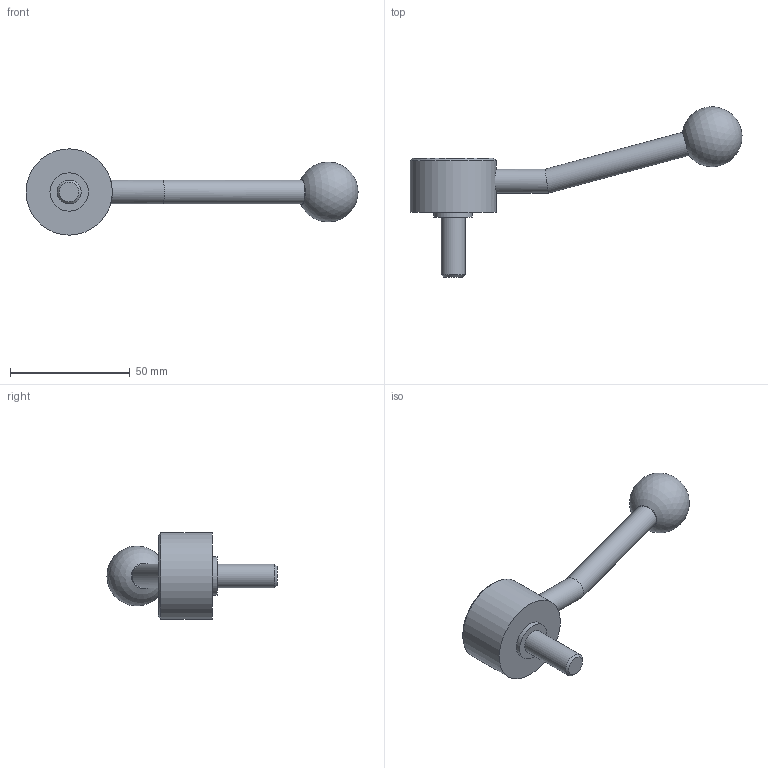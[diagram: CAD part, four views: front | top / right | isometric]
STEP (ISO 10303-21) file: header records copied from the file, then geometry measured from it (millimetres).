
FILE_DESCRIPTION( ( 'STEP AP203' ), '1' );
FILE_NAME( 'C:/Temp/Ganter_Step_05_03_2020/data/2_1/gn_125/gn_125_ms/gn_125_ms_e/Flat Adjustable Lever GN 125-36-M10-25-E.stp', '2020-03-05T11:00:57', ( 'License CC BY-ND 4.0' ), ( 'CADENAS' ), ' ', 'PARTsolutions', ' ' );
FILE_SCHEMA( ( 'CONFIG_CONTROL_DESIGN' ) );
Length unit declared in the file: millimetre
Products named in the file (1): _Flat Adjustable Lever GN 125-36-M10-25-E
Bounding box: 138.41 x 70.93 x 36 mm (x, y, z)
Volume: 39572.8 mm3; surface area: 9759.5 mm2
Topology: 1 solids, 1 shells, 15 faces, 25 edges, 16 vertices
Faces by surface type: cylinder 6, plane 6, cone 2, sphere 1
Full cylindrical faces by diameter (mm): 10 x3, 16 x1, 26 x1, 36 x1
Entity records: 412 total; most frequent: CARTESIAN_POINT 118, DIRECTION 58, AXIS2_PLACEMENT_3D 29, EDGE_LOOP 28, ORIENTED_EDGE 28, FACE_OUTER_BOUND 21, ADVANCED_FACE 15, VERTEX_POINT 15
